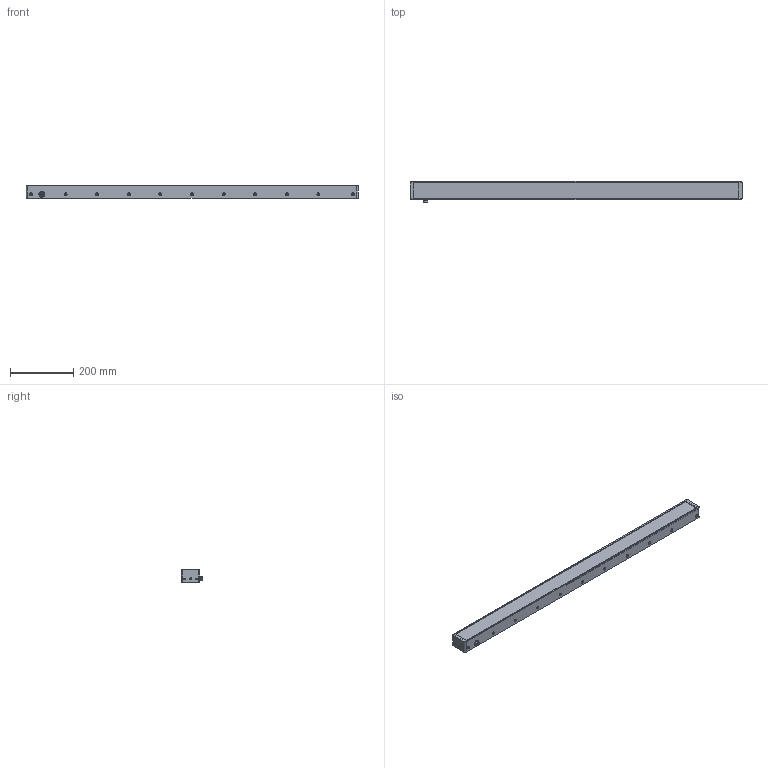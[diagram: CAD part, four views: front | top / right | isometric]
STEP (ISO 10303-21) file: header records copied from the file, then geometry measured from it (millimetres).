
FILE_DESCRIPTION(/* description */ (''),/* implementation_level */ '2;1');
FILE_NAME(/* name */ '105823_1050_V1.0.1_20230215.stp',/* time_stamp */ '2023-02-17T12:11:50+01:00',/* author */ ('Miro'),/* organization */ (''),/* preprocessor_version */ 'ST-DEVELOPER v19.2',/* originating_system */ 'Autodesk Inventor 2023',/* authorisation */ '');
FILE_SCHEMA (('AUTOMOTIVE_DESIGN { 1 0 10303 214 3 1 1 }'));
Length unit declared in the file: inch
Products named in the file (1): 105823_1050_V1.0.1_20230215_Simplify_2
Bounding box: 1050 x 67 x 40 mm (x, y, z)
Volume: 922982.1 mm3; surface area: 484234.3 mm2
Topology: 1 solids, 1 shells, 1012 faces, 2529 edges, 1601 vertices
Faces by surface type: plane 548, cylinder 234, cone 140, bspline 54, torus 36
Full cylindrical faces by diameter (mm): 0.56 x10, 1 x5, 2.529 x41, 4 x44, 4.2 x26, 4.3 x4, 5.035 x4, 6.78 x2, 8 x26, 8.3 x1, 10.5 x1, 10.65 x1, 12 x1, 12.15 x1, 13.4 x1, 14.526 x1, 18.5 x2
Entity records: 31871 total; most frequent: CARTESIAN_POINT 6491, DIRECTION 5101, ORIENTED_EDGE 4994, EDGE_CURVE 2497, AXIS2_PLACEMENT_3D 1905, VERTEX_POINT 1601, LINE 1291, VECTOR 1291
